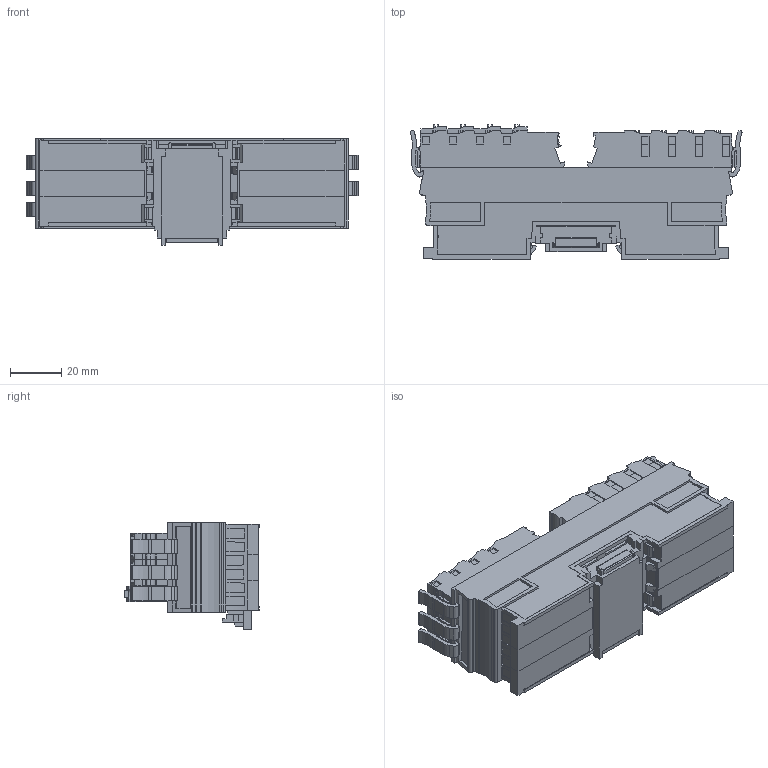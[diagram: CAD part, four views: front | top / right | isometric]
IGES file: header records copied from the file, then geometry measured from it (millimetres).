
Start section:  PTC IGES file: cu_rem-11154.igs
Global section: file name: cu_rem-11154.igs; native system: Creo Parametric by PTC Inc.; preprocessor: 2015380; author: dkendric; organization: Unknown; date: 20170511.112645; units: inch
Bounding box: 129.89 x 52.55 x 41.8 mm (x, y, z)
Surface area: 46123.6 mm2 (no closed solid volume)
Topology: 0 solids, 0 shells, 2550 faces, 14350 edges, 14350 vertices
Faces by surface type: bspline 2051, revolution 499
